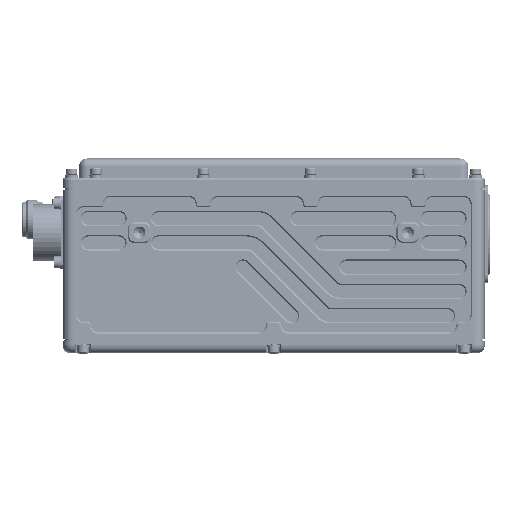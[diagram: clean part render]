
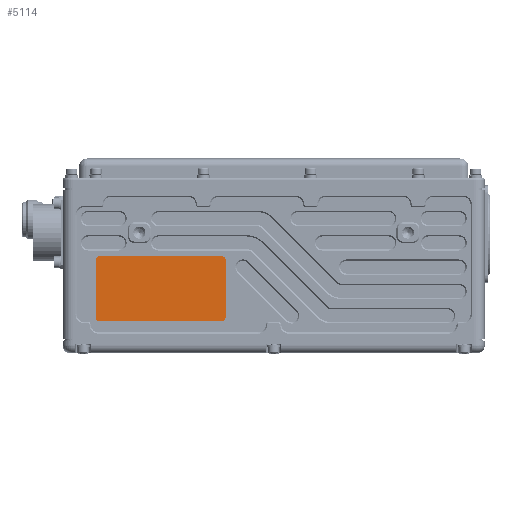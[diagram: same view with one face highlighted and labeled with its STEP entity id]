
A CAD part, top view. The second image highlights one B-rep face of the part: STEP entity #5114.
In plain terms, the highlighted planar face has unit normal (0, 0, 1) as drawn and (-1, 0, 0) by its records, which use the part's own axes.
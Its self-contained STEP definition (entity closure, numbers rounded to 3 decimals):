
#2683 = CARTESIAN_POINT ( 'NONE',  ( 0., -12.7, -25.4 ) ) ;
#4724 = LINE ( 'NONE', #2683, #12183 ) ;
#5087 = VERTEX_POINT ( 'NONE', #16739 ) ;
#5114 = ADVANCED_FACE ( 'NONE', ( #5254 ), #52010, .F. ) ;
#5254 = FACE_OUTER_BOUND ( 'NONE', #18413, .T. ) ;
#6330 = LINE ( 'NONE', #78925, #86538 ) ;
#8620 = CIRCLE ( 'NONE', #79859, 1.5 ) ;
#9187 = EDGE_CURVE ( 'NONE', #5087, #34567, #78868, .T. ) ;
#10821 = DIRECTION ( 'NONE',  ( -1., 0., 0. ) ) ;
#11776 = VERTEX_POINT ( 'NONE', #99079 ) ;
#12183 = VECTOR ( 'NONE', #34400, 1000. ) ;
#15099 = CARTESIAN_POINT ( 'NONE',  ( 0., 11.2, -25.4 ) ) ;
#16683 = EDGE_CURVE ( 'NONE', #40662, #34567, #4724, .T. ) ;
#16739 = CARTESIAN_POINT ( 'NONE',  ( 0., -11.2, -25.4 ) ) ;
#17119 = ORIENTED_EDGE ( 'NONE', *, *, #75540, .T. ) ;
#18413 = EDGE_LOOP ( 'NONE', ( #101440, #63747, #32841, #30906, #70261, #79231, #42817, #17119 ) ) ;
#18444 = DIRECTION ( 'NONE',  ( -1., 0., 0. ) ) ;
#18975 = DIRECTION ( 'NONE',  ( 0., 0., -1. ) ) ;
#19006 = EDGE_CURVE ( 'NONE', #101764, #70853, #21676, .T. ) ;
#21105 = EDGE_CURVE ( 'NONE', #101308, #62064, #8620, .T. ) ;
#21676 = LINE ( 'NONE', #62038, #85554 ) ;
#24016 = DIRECTION ( 'NONE',  ( 0., 0., 1. ) ) ;
#24110 = DIRECTION ( 'NONE',  ( -1., 0., 0. ) ) ;
#25085 = DIRECTION ( 'NONE',  ( 0., 0., -1. ) ) ;
#27973 = CARTESIAN_POINT ( 'NONE',  ( 0., 11.2, 25.4 ) ) ;
#30906 = ORIENTED_EDGE ( 'NONE', *, *, #9187, .T. ) ;
#31155 = EDGE_CURVE ( 'NONE', #40662, #70853, #64057, .T. ) ;
#32841 = ORIENTED_EDGE ( 'NONE', *, *, #96846, .F. ) ;
#34400 = DIRECTION ( 'NONE',  ( 0., 0., -1. ) ) ;
#34567 = VERTEX_POINT ( 'NONE', #79294 ) ;
#34752 = CARTESIAN_POINT ( 'NONE',  ( 0., -11.2, 25.4 ) ) ;
#35092 = CARTESIAN_POINT ( 'NONE',  ( 0., -11.2, 23.9 ) ) ;
#36974 = DIRECTION ( 'NONE',  ( 0., 0., -1. ) ) ;
#40662 = VERTEX_POINT ( 'NONE', #65258 ) ;
#42817 = ORIENTED_EDGE ( 'NONE', *, *, #19006, .F. ) ;
#46429 = CARTESIAN_POINT ( 'NONE',  ( 0., -11.2, -23.9 ) ) ;
#46963 = DIRECTION ( 'NONE',  ( 0., 0., -1. ) ) ;
#48468 = CARTESIAN_POINT ( 'NONE',  ( 0., -12.7, -25.4 ) ) ;
#51499 = DIRECTION ( 'NONE',  ( 1., 0., 0. ) ) ;
#52010 = PLANE ( 'NONE',  #85408 ) ;
#58029 = DIRECTION ( 'NONE',  ( 0., 0., -1. ) ) ;
#58532 = CARTESIAN_POINT ( 'NONE',  ( 0., 11.2, -23.9 ) ) ;
#62038 = CARTESIAN_POINT ( 'NONE',  ( 0., -12.7, 25.4 ) ) ;
#62064 = VERTEX_POINT ( 'NONE', #15099 ) ;
#63747 = ORIENTED_EDGE ( 'NONE', *, *, #21105, .T. ) ;
#64057 = CIRCLE ( 'NONE', #67356, 1.5 ) ;
#65258 = CARTESIAN_POINT ( 'NONE',  ( 0., -12.7, 23.9 ) ) ;
#67356 = AXIS2_PLACEMENT_3D ( 'NONE', #35092, #18444, #18975 ) ;
#67425 = AXIS2_PLACEMENT_3D ( 'NONE', #46429, #24110, #46963 ) ;
#69427 = VECTOR ( 'NONE', #88310, 1000. ) ;
#70068 = EDGE_CURVE ( 'NONE', #101308, #11776, #6330, .T. ) ;
#70261 = ORIENTED_EDGE ( 'NONE', *, *, #16683, .F. ) ;
#70853 = VERTEX_POINT ( 'NONE', #34752 ) ;
#75540 = EDGE_CURVE ( 'NONE', #101764, #11776, #94868, .T. ) ;
#78868 = CIRCLE ( 'NONE', #67425, 1.5 ) ;
#78925 = CARTESIAN_POINT ( 'NONE',  ( 0., 12.7, -25.4 ) ) ;
#79231 = ORIENTED_EDGE ( 'NONE', *, *, #31155, .T. ) ;
#79294 = CARTESIAN_POINT ( 'NONE',  ( 0., -12.7, -23.9 ) ) ;
#79491 = DIRECTION ( 'NONE',  ( -1., 0., 0. ) ) ;
#79859 = AXIS2_PLACEMENT_3D ( 'NONE', #58532, #10821, #58029 ) ;
#83585 = CARTESIAN_POINT ( 'NONE',  ( 0., 0., 0. ) ) ;
#85408 = AXIS2_PLACEMENT_3D ( 'NONE', #83585, #51499, #36974 ) ;
#85554 = VECTOR ( 'NONE', #93701, 1000. ) ;
#86538 = VECTOR ( 'NONE', #24016, 1000. ) ;
#86568 = AXIS2_PLACEMENT_3D ( 'NONE', #96064, #79491, #25085 ) ;
#87853 = CARTESIAN_POINT ( 'NONE',  ( 0., 12.7, -23.9 ) ) ;
#88310 = DIRECTION ( 'NONE',  ( 0., 1., 0. ) ) ;
#93701 = DIRECTION ( 'NONE',  ( 0., -1., 0. ) ) ;
#94868 = CIRCLE ( 'NONE', #86568, 1.5 ) ;
#96064 = CARTESIAN_POINT ( 'NONE',  ( 0., 11.2, 23.9 ) ) ;
#96582 = LINE ( 'NONE', #48468, #69427 ) ;
#96846 = EDGE_CURVE ( 'NONE', #5087, #62064, #96582, .T. ) ;
#99079 = CARTESIAN_POINT ( 'NONE',  ( 0., 12.7, 23.9 ) ) ;
#101308 = VERTEX_POINT ( 'NONE', #87853 ) ;
#101440 = ORIENTED_EDGE ( 'NONE', *, *, #70068, .F. ) ;
#101764 = VERTEX_POINT ( 'NONE', #27973 ) ;
